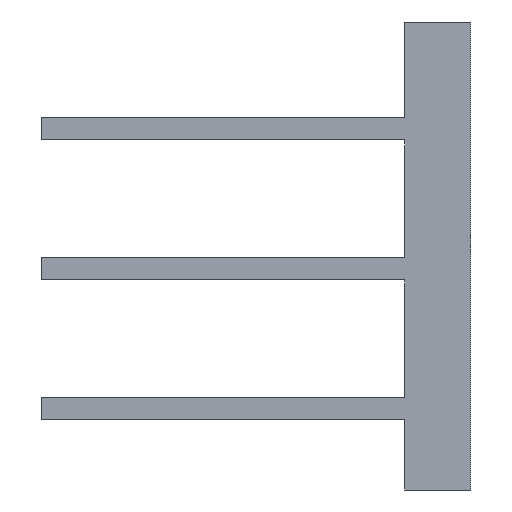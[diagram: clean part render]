
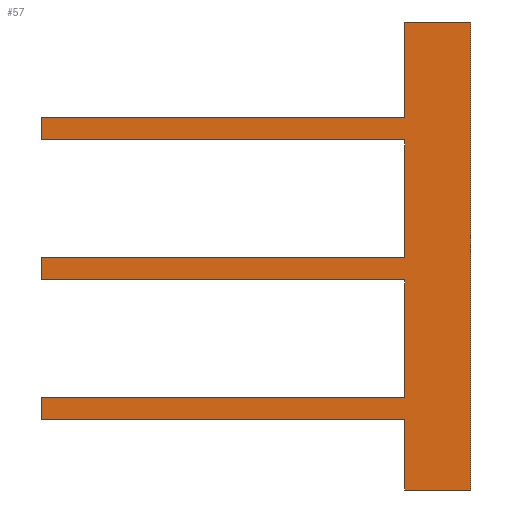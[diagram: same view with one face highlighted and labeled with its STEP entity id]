
A CAD part, front view. The second image highlights one B-rep face of the part: STEP entity #57.
In plain terms, the highlighted planar face has unit normal (0, -1, 0).
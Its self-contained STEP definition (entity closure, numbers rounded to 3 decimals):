
#21 = EDGE_CURVE('',#22,#24,#26,.T.);
#22 = VERTEX_POINT('',#23);
#23 = CARTESIAN_POINT('',(115.,-4.,-2.));
#24 = VERTEX_POINT('',#25);
#25 = CARTESIAN_POINT('',(121.,-4.,-2.));
#26 = LINE('',#27,#28);
#27 = CARTESIAN_POINT('',(115.,-4.,-2.));
#28 = VECTOR('',#29,1.);
#29 = DIRECTION('',(1.,0.,0.));
#57 = ADVANCED_FACE('',(#58),#179,.T.);
#58 = FACE_BOUND('',#59,.T.);
#59 = EDGE_LOOP('',(#60,#68,#69,#77,#85,#93,#101,#109,#117,#125,#133,
    #141,#149,#157,#165,#173));
#60 = ORIENTED_EDGE('',*,*,#61,.F.);
#61 = EDGE_CURVE('',#22,#62,#64,.T.);
#62 = VERTEX_POINT('',#63);
#63 = CARTESIAN_POINT('',(115.,-4.,4.35));
#64 = LINE('',#65,#66);
#65 = CARTESIAN_POINT('',(115.,-4.,-2.));
#66 = VECTOR('',#67,1.);
#67 = DIRECTION('',(0.,0.,1.));
#68 = ORIENTED_EDGE('',*,*,#21,.T.);
#69 = ORIENTED_EDGE('',*,*,#70,.T.);
#70 = EDGE_CURVE('',#24,#71,#73,.T.);
#71 = VERTEX_POINT('',#72);
#72 = CARTESIAN_POINT('',(121.,-4.,40.45));
#73 = LINE('',#74,#75);
#74 = CARTESIAN_POINT('',(121.,-4.,-2.));
#75 = VECTOR('',#76,1.);
#76 = DIRECTION('',(0.,0.,1.));
#77 = ORIENTED_EDGE('',*,*,#78,.F.);
#78 = EDGE_CURVE('',#79,#71,#81,.T.);
#79 = VERTEX_POINT('',#80);
#80 = CARTESIAN_POINT('',(115.,-4.,40.45));
#81 = LINE('',#82,#83);
#82 = CARTESIAN_POINT('',(115.,-4.,40.45));
#83 = VECTOR('',#84,1.);
#84 = DIRECTION('',(1.,0.,0.));
#85 = ORIENTED_EDGE('',*,*,#86,.F.);
#86 = EDGE_CURVE('',#87,#79,#89,.T.);
#87 = VERTEX_POINT('',#88);
#88 = CARTESIAN_POINT('',(115.,-4.,31.75));
#89 = LINE('',#90,#91);
#90 = CARTESIAN_POINT('',(115.,-4.,-2.));
#91 = VECTOR('',#92,1.);
#92 = DIRECTION('',(0.,0.,1.));
#93 = ORIENTED_EDGE('',*,*,#94,.F.);
#94 = EDGE_CURVE('',#95,#87,#97,.T.);
#95 = VERTEX_POINT('',#96);
#96 = CARTESIAN_POINT('',(82.,-4.,31.75));
#97 = LINE('',#98,#99);
#98 = CARTESIAN_POINT('',(82.,-4.,31.75));
#99 = VECTOR('',#100,1.);
#100 = DIRECTION('',(1.,0.,0.));
#101 = ORIENTED_EDGE('',*,*,#102,.F.);
#102 = EDGE_CURVE('',#103,#95,#105,.T.);
#103 = VERTEX_POINT('',#104);
#104 = CARTESIAN_POINT('',(82.,-4.,29.75));
#105 = LINE('',#106,#107);
#106 = CARTESIAN_POINT('',(82.,-4.,29.75));
#107 = VECTOR('',#108,1.);
#108 = DIRECTION('',(0.,0.,1.));
#109 = ORIENTED_EDGE('',*,*,#110,.T.);
#110 = EDGE_CURVE('',#103,#111,#113,.T.);
#111 = VERTEX_POINT('',#112);
#112 = CARTESIAN_POINT('',(115.,-4.,29.75));
#113 = LINE('',#114,#115);
#114 = CARTESIAN_POINT('',(82.,-4.,29.75));
#115 = VECTOR('',#116,1.);
#116 = DIRECTION('',(1.,0.,0.));
#117 = ORIENTED_EDGE('',*,*,#118,.F.);
#118 = EDGE_CURVE('',#119,#111,#121,.T.);
#119 = VERTEX_POINT('',#120);
#120 = CARTESIAN_POINT('',(115.,-4.,19.05));
#121 = LINE('',#122,#123);
#122 = CARTESIAN_POINT('',(115.,-4.,-2.));
#123 = VECTOR('',#124,1.);
#124 = DIRECTION('',(0.,0.,1.));
#125 = ORIENTED_EDGE('',*,*,#126,.F.);
#126 = EDGE_CURVE('',#127,#119,#129,.T.);
#127 = VERTEX_POINT('',#128);
#128 = CARTESIAN_POINT('',(82.,-4.,19.05));
#129 = LINE('',#130,#131);
#130 = CARTESIAN_POINT('',(82.,-4.,19.05));
#131 = VECTOR('',#132,1.);
#132 = DIRECTION('',(1.,0.,0.));
#133 = ORIENTED_EDGE('',*,*,#134,.F.);
#134 = EDGE_CURVE('',#135,#127,#137,.T.);
#135 = VERTEX_POINT('',#136);
#136 = CARTESIAN_POINT('',(82.,-4.,17.05));
#137 = LINE('',#138,#139);
#138 = CARTESIAN_POINT('',(82.,-4.,17.05));
#139 = VECTOR('',#140,1.);
#140 = DIRECTION('',(0.,0.,1.));
#141 = ORIENTED_EDGE('',*,*,#142,.T.);
#142 = EDGE_CURVE('',#135,#143,#145,.T.);
#143 = VERTEX_POINT('',#144);
#144 = CARTESIAN_POINT('',(115.,-4.,17.05));
#145 = LINE('',#146,#147);
#146 = CARTESIAN_POINT('',(82.,-4.,17.05));
#147 = VECTOR('',#148,1.);
#148 = DIRECTION('',(1.,0.,0.));
#149 = ORIENTED_EDGE('',*,*,#150,.F.);
#150 = EDGE_CURVE('',#151,#143,#153,.T.);
#151 = VERTEX_POINT('',#152);
#152 = CARTESIAN_POINT('',(115.,-4.,6.35));
#153 = LINE('',#154,#155);
#154 = CARTESIAN_POINT('',(115.,-4.,-2.));
#155 = VECTOR('',#156,1.);
#156 = DIRECTION('',(0.,0.,1.));
#157 = ORIENTED_EDGE('',*,*,#158,.F.);
#158 = EDGE_CURVE('',#159,#151,#161,.T.);
#159 = VERTEX_POINT('',#160);
#160 = CARTESIAN_POINT('',(82.,-4.,6.35));
#161 = LINE('',#162,#163);
#162 = CARTESIAN_POINT('',(82.,-4.,6.35));
#163 = VECTOR('',#164,1.);
#164 = DIRECTION('',(1.,0.,0.));
#165 = ORIENTED_EDGE('',*,*,#166,.F.);
#166 = EDGE_CURVE('',#167,#159,#169,.T.);
#167 = VERTEX_POINT('',#168);
#168 = CARTESIAN_POINT('',(82.,-4.,4.35));
#169 = LINE('',#170,#171);
#170 = CARTESIAN_POINT('',(82.,-4.,4.35));
#171 = VECTOR('',#172,1.);
#172 = DIRECTION('',(0.,0.,1.));
#173 = ORIENTED_EDGE('',*,*,#174,.T.);
#174 = EDGE_CURVE('',#167,#62,#175,.T.);
#175 = LINE('',#176,#177);
#176 = CARTESIAN_POINT('',(82.,-4.,4.35));
#177 = VECTOR('',#178,1.);
#178 = DIRECTION('',(1.,0.,0.));
#179 = PLANE('',#180);
#180 = AXIS2_PLACEMENT_3D('',#181,#182,#183);
#181 = CARTESIAN_POINT('',(104.236,-4.,18.436));
#182 = DIRECTION('',(-0.,-1.,-0.));
#183 = DIRECTION('',(0.,0.,-1.));
